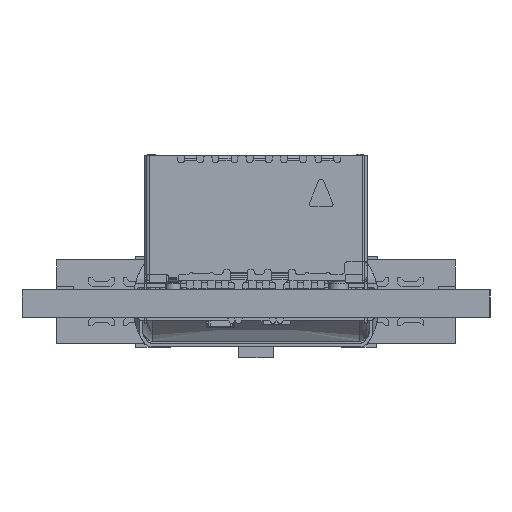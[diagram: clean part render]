
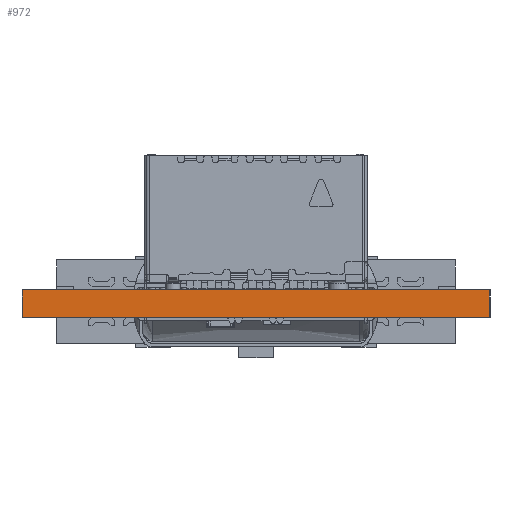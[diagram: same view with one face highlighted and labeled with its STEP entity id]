
A CAD part, front view. The second image highlights one B-rep face of the part: STEP entity #972.
In plain terms, the highlighted planar face has unit normal (0, -1, 0).
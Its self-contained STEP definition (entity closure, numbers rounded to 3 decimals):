
#943 = EDGE_CURVE('',#944,#946,#948,.T.);
#944 = VERTEX_POINT('',#945);
#945 = CARTESIAN_POINT('',(2.328,4.233,0.));
#946 = VERTEX_POINT('',#947);
#947 = CARTESIAN_POINT('',(2.328,4.233,1.6));
#948 = LINE('',#949,#950);
#949 = CARTESIAN_POINT('',(2.328,4.233,0.));
#950 = VECTOR('',#951,1.);
#951 = DIRECTION('',(0.,0.,1.));
#972 = ADVANCED_FACE('',(#973),#998,.T.);
#973 = FACE_BOUND('',#974,.T.);
#974 = EDGE_LOOP('',(#975,#985,#991,#992));
#975 = ORIENTED_EDGE('',*,*,#976,.T.);
#976 = EDGE_CURVE('',#977,#979,#981,.T.);
#977 = VERTEX_POINT('',#978);
#978 = CARTESIAN_POINT('',(29.528,4.233,0.));
#979 = VERTEX_POINT('',#980);
#980 = CARTESIAN_POINT('',(29.528,4.233,1.6));
#981 = LINE('',#982,#983);
#982 = CARTESIAN_POINT('',(29.528,4.233,0.));
#983 = VECTOR('',#984,1.);
#984 = DIRECTION('',(0.,0.,1.));
#985 = ORIENTED_EDGE('',*,*,#986,.T.);
#986 = EDGE_CURVE('',#979,#946,#987,.T.);
#987 = LINE('',#988,#989);
#988 = CARTESIAN_POINT('',(29.528,4.233,1.6));
#989 = VECTOR('',#990,1.);
#990 = DIRECTION('',(-1.,0.,0.));
#991 = ORIENTED_EDGE('',*,*,#943,.F.);
#992 = ORIENTED_EDGE('',*,*,#993,.F.);
#993 = EDGE_CURVE('',#977,#944,#994,.T.);
#994 = LINE('',#995,#996);
#995 = CARTESIAN_POINT('',(29.528,4.233,0.));
#996 = VECTOR('',#997,1.);
#997 = DIRECTION('',(-1.,0.,0.));
#998 = PLANE('',#999);
#999 = AXIS2_PLACEMENT_3D('',#1000,#1001,#1002);
#1000 = CARTESIAN_POINT('',(29.528,4.233,0.));
#1001 = DIRECTION('',(0.,-1.,0.));
#1002 = DIRECTION('',(-1.,0.,0.));
